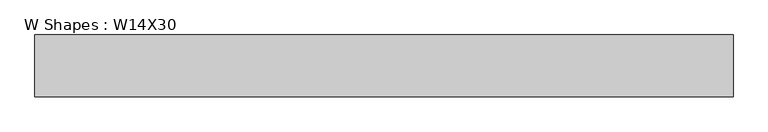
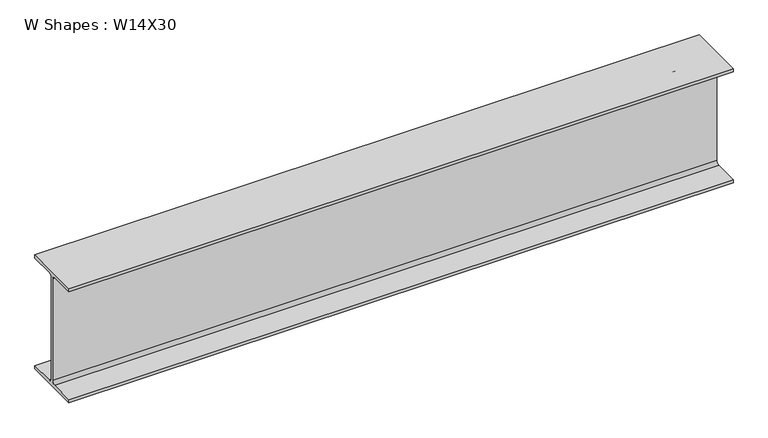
"""IFC4 building model written with IfcOpenShell, lengths in millimetres: beam geometry, W Shapes : W14X30."""

from ifc_helpers import new_model, si_unit, point, frame, frame_2d, origin, place, context, project, spatial, polyline, circle_curve, trimmed, segment, composite_curve, outline, extrude, source, transform, mapped, element, save


def w_shapes_w14x30_e9898bc3(model_context):
    return source(origin(), model_context, "Body", "SweptSolid", [
        extrude(outline(composite_curve([segment(polyline([(85.471, -165.481), (85.471, -175.26), (-85.471, -175.26), (-85.471, -165.481), (-13.589, -165.481)]), True, "CONTINUOUS"), segment(trimmed(circle_curve(frame_2d((-13.589, -155.321)), 10.16), [point((-13.589, -165.481))], [point((-3.429, -155.321))], True, "CARTESIAN"), True, "CONTINUOUS"), segment(polyline([(-3.429, -155.321), (-3.429, 155.321)]), True, "CONTINUOUS"), segment(trimmed(circle_curve(frame_2d((-13.589, 155.321)), 10.16), [point((-3.429, 155.321))], [point((-13.589, 165.481))], True, "CARTESIAN"), True, "CONTINUOUS"), segment(polyline([(-13.589, 165.481), (-85.471, 165.481), (-85.471, 175.26), (85.471, 175.26), (85.471, 165.481), (13.589, 165.481)]), True, "CONTINUOUS"), segment(trimmed(circle_curve(frame_2d((13.589, 155.321)), 10.16), [point((13.589, 165.481))], [point((3.429, 155.321))], True, "CARTESIAN"), True, "CONTINUOUS"), segment(polyline([(3.429, 155.321), (3.429, -155.321)]), True, "CONTINUOUS"), segment(trimmed(circle_curve(frame_2d((13.589, -155.321)), 10.16), [point((3.429, -155.321))], [point((13.589, -165.481))], True, "CARTESIAN"), True, "CONTINUOUS"), segment(polyline([(13.589, -165.481), (85.471, -165.481)]), True, "CONTINUOUS")], self_intersect=False)), frame((-1067.6147122, 0.0, 0.0), z_axis=(1.0, 0.0, 0.0), x_axis=(0.0, 1.0, 0.0)), (0.0, 0.0, 1.0), 1929.763636),
    ])


if __name__ == "__main__":
    model = new_model("IFC4")
    model_context = context("Model", 3, world=origin())
    ifc_project = project(units=[si_unit("LENGTHUNIT", "METRE", prefix="MILLI")], contexts=[model_context])
    site = spatial("IfcSite", under=ifc_project)
    building = spatial("IfcBuilding", under=site)
    placement = place(None, origin())
    w_shapes_w14x30_shape = w_shapes_w14x30_e9898bc3(model_context)
    element("IfcBeam", 1, ObjectType="W Shapes : W14X30", at=placement, inside=building, context=model_context, shape_type="MappedRepresentation", body=[
        mapped(w_shapes_w14x30_shape, transform((0.0, 0.0, 0.0), x_axis=(1.0, 0.0, 0.0), y_axis=(0.0, 1.0, 0.0), z_axis=(0.0, 0.0, 1.0))),
    ])
    save(model, "model.ifc")
